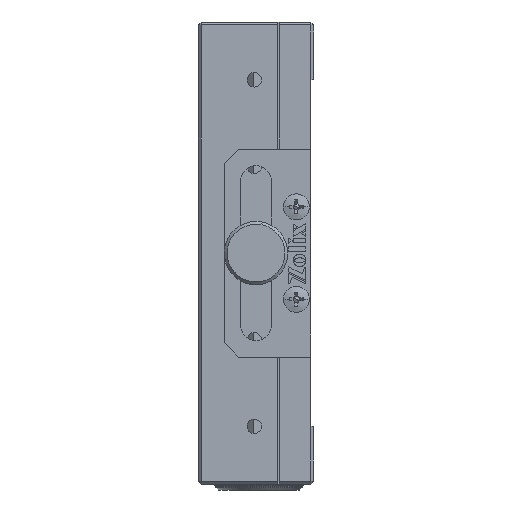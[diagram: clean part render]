
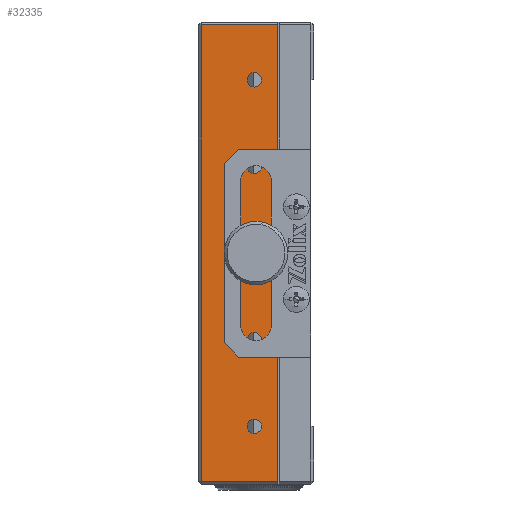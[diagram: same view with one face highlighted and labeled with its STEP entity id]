
A CAD part, left-side view. The second image highlights one B-rep face of the part: STEP entity #32335.
In plain terms, the highlighted planar face has unit normal (-1, 0, 0).
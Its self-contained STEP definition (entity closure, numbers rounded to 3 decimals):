
#350 = EDGE_CURVE ( 'NONE', #34353, #15130, #20415, .T. ) ;
#1024 = VERTEX_POINT ( 'NONE', #22982 ) ;
#1559 = EDGE_CURVE ( 'NONE', #21155, #28347, #36239, .T. ) ;
#1900 = EDGE_CURVE ( 'NONE', #19435, #8031, #33660, .T. ) ;
#2392 = DIRECTION ( 'NONE',  ( -1., 0., 0. ) ) ;
#2462 = CARTESIAN_POINT ( 'NONE',  ( -31.023, -20.868, 52.5 ) ) ;
#2841 = VERTEX_POINT ( 'NONE', #40314 ) ;
#3067 = CIRCLE ( 'NONE', #40411, 1.25 ) ;
#3211 = AXIS2_PLACEMENT_3D ( 'NONE', #27399, #11199, #34038 ) ;
#3980 = DIRECTION ( 'NONE',  ( 0., 0., 1. ) ) ;
#4046 = ORIENTED_EDGE ( 'NONE', *, *, #39722, .T. ) ;
#4564 = CARTESIAN_POINT ( 'NONE',  ( -31.023, -17.168, 90.4 ) ) ;
#4637 = DIRECTION ( 'NONE',  ( -1., 0., 0. ) ) ;
#4684 = ORIENTED_EDGE ( 'NONE', *, *, #31153, .F. ) ;
#5009 = AXIS2_PLACEMENT_3D ( 'NONE', #5511, #5220, #11701 ) ;
#5194 = CARTESIAN_POINT ( 'NONE',  ( -31.023, -16.868, 62.5 ) ) ;
#5220 = DIRECTION ( 'NONE',  ( -1., 0., 0. ) ) ;
#5511 = CARTESIAN_POINT ( 'NONE',  ( -31.023, -16.868, 122.5 ) ) ;
#5591 = CARTESIAN_POINT ( 'NONE',  ( -31.023, -7.668, 132. ) ) ;
#5643 = DIRECTION ( 'NONE',  ( 0., 0., 1. ) ) ;
#5857 = ORIENTED_EDGE ( 'NONE', *, *, #8309, .F. ) ;
#6480 = EDGE_CURVE ( 'NONE', #19207, #35216, #3067, .T. ) ;
#6888 = AXIS2_PLACEMENT_3D ( 'NONE', #30829, #17677, #23926 ) ;
#7016 = VECTOR ( 'NONE', #40687, 1000. ) ;
#7029 = CARTESIAN_POINT ( 'NONE',  ( -31.023, -17.168, 92.5 ) ) ;
#7156 = DIRECTION ( 'NONE',  ( 0., 0., 1. ) ) ;
#7596 = CIRCLE ( 'NONE', #5009, 1.25 ) ;
#7885 = FACE_BOUND ( 'NONE', #23200, .T. ) ;
#8031 = VERTEX_POINT ( 'NONE', #35089 ) ;
#8131 = ORIENTED_EDGE ( 'NONE', *, *, #22523, .F. ) ;
#8157 = DIRECTION ( 'NONE',  ( 0., 0., 1. ) ) ;
#8309 = EDGE_CURVE ( 'NONE', #28347, #21155, #18184, .T. ) ;
#8366 = EDGE_CURVE ( 'NONE', #29335, #22746, #14656, .T. ) ;
#8512 = CIRCLE ( 'NONE', #6888, 1.25 ) ;
#9386 = CIRCLE ( 'NONE', #17623, 1.25 ) ;
#9795 = AXIS2_PLACEMENT_3D ( 'NONE', #17947, #27532, #27090 ) ;
#9807 = CARTESIAN_POINT ( 'NONE',  ( -31.023, -7.668, 52.5 ) ) ;
#10069 = DIRECTION ( 'NONE',  ( -1., 0., 0. ) ) ;
#10208 = VECTOR ( 'NONE', #28817, 1000. ) ;
#10513 = AXIS2_PLACEMENT_3D ( 'NONE', #18238, #27961, #24791 ) ;
#11199 = DIRECTION ( 'NONE',  ( -1., 0., 0. ) ) ;
#11306 = AXIS2_PLACEMENT_3D ( 'NONE', #11336, #38035, #8157 ) ;
#11336 = CARTESIAN_POINT ( 'NONE',  ( -31.023, -16.868, 77.5 ) ) ;
#11701 = DIRECTION ( 'NONE',  ( 0., 0., 1. ) ) ;
#11795 = VECTOR ( 'NONE', #25823, 1000. ) ;
#12069 = CARTESIAN_POINT ( 'NONE',  ( -31.023, -16.868, 61.25 ) ) ;
#12204 = CARTESIAN_POINT ( 'NONE',  ( -31.023, -17.168, 94.6 ) ) ;
#12451 = EDGE_LOOP ( 'NONE', ( #33810, #22240 ) ) ;
#12796 = CARTESIAN_POINT ( 'NONE',  ( -31.023, -16.868, 78.75 ) ) ;
#12901 = ORIENTED_EDGE ( 'NONE', *, *, #6480, .F. ) ;
#13258 = CIRCLE ( 'NONE', #42357, 1.25 ) ;
#13367 = DIRECTION ( 'NONE',  ( 0., 0., -1. ) ) ;
#13500 = ORIENTED_EDGE ( 'NONE', *, *, #37460, .T. ) ;
#14370 = EDGE_LOOP ( 'NONE', ( #13500, #38034, #4046, #23281 ) ) ;
#14656 = CIRCLE ( 'NONE', #3211, 1.25 ) ;
#15012 = CARTESIAN_POINT ( 'NONE',  ( -31.023, -20.868, 53. ) ) ;
#15107 = CARTESIAN_POINT ( 'NONE',  ( -31.023, -16.868, 123.75 ) ) ;
#15130 = VERTEX_POINT ( 'NONE', #15012 ) ;
#15898 = VECTOR ( 'NONE', #13367, 1000. ) ;
#16017 = CARTESIAN_POINT ( 'NONE',  ( -31.023, -20.868, 53. ) ) ;
#16067 = EDGE_CURVE ( 'NONE', #1024, #30787, #33121, .T. ) ;
#17577 = FACE_BOUND ( 'NONE', #24348, .T. ) ;
#17623 = AXIS2_PLACEMENT_3D ( 'NONE', #29381, #39429, #3980 ) ;
#17677 = DIRECTION ( 'NONE',  ( -1., 0., 0. ) ) ;
#17891 = LINE ( 'NONE', #9807, #15898 ) ;
#17947 = CARTESIAN_POINT ( 'NONE',  ( -31.023, -17.168, 92.5 ) ) ;
#18184 = CIRCLE ( 'NONE', #9795, 2.1 ) ;
#18238 = CARTESIAN_POINT ( 'NONE',  ( -31.023, -20.868, 52.5 ) ) ;
#18826 = AXIS2_PLACEMENT_3D ( 'NONE', #7029, #10069, #7156 ) ;
#19207 = VERTEX_POINT ( 'NONE', #29807 ) ;
#19270 = CARTESIAN_POINT ( 'NONE',  ( -31.023, -7.668, 53. ) ) ;
#19368 = ORIENTED_EDGE ( 'NONE', *, *, #38965, .F. ) ;
#19435 = VERTEX_POINT ( 'NONE', #12796 ) ;
#19595 = FACE_BOUND ( 'NONE', #26758, .T. ) ;
#19739 = AXIS2_PLACEMENT_3D ( 'NONE', #27137, #30618, #30051 ) ;
#20415 = LINE ( 'NONE', #16017, #11795 ) ;
#21155 = VERTEX_POINT ( 'NONE', #4564 ) ;
#21789 = ORIENTED_EDGE ( 'NONE', *, *, #1900, .F. ) ;
#21833 = CIRCLE ( 'NONE', #19739, 1.25 ) ;
#22092 = EDGE_CURVE ( 'NONE', #22746, #29335, #7596, .T. ) ;
#22240 = ORIENTED_EDGE ( 'NONE', *, *, #22092, .F. ) ;
#22523 = EDGE_CURVE ( 'NONE', #2841, #26892, #21833, .T. ) ;
#22746 = VERTEX_POINT ( 'NONE', #35430 ) ;
#22982 = CARTESIAN_POINT ( 'NONE',  ( -31.023, -20.868, 132. ) ) ;
#23200 = EDGE_LOOP ( 'NONE', ( #5857, #42255 ) ) ;
#23281 = ORIENTED_EDGE ( 'NONE', *, *, #16067, .T. ) ;
#23926 = DIRECTION ( 'NONE',  ( 0., 0., 1. ) ) ;
#24348 = EDGE_LOOP ( 'NONE', ( #4684, #12901 ) ) ;
#24791 = DIRECTION ( 'NONE',  ( 0., 0., 1. ) ) ;
#25823 = DIRECTION ( 'NONE',  ( 0., -1., 0. ) ) ;
#26758 = EDGE_LOOP ( 'NONE', ( #21789, #40235 ) ) ;
#26892 = VERTEX_POINT ( 'NONE', #12069 ) ;
#27090 = DIRECTION ( 'NONE',  ( 0., 0., 1. ) ) ;
#27137 = CARTESIAN_POINT ( 'NONE',  ( -31.023, -16.868, 62.5 ) ) ;
#27399 = CARTESIAN_POINT ( 'NONE',  ( -31.023, -16.868, 122.5 ) ) ;
#27532 = DIRECTION ( 'NONE',  ( -1., 0., 0. ) ) ;
#27961 = DIRECTION ( 'NONE',  ( -1., 0., 0. ) ) ;
#28347 = VERTEX_POINT ( 'NONE', #12204 ) ;
#28817 = DIRECTION ( 'NONE',  ( 0., 0., 1. ) ) ;
#29335 = VERTEX_POINT ( 'NONE', #15107 ) ;
#29381 = CARTESIAN_POINT ( 'NONE',  ( -31.023, -16.868, 77.5 ) ) ;
#29807 = CARTESIAN_POINT ( 'NONE',  ( -31.023, -16.868, 106.25 ) ) ;
#30051 = DIRECTION ( 'NONE',  ( 0., 0., 1. ) ) ;
#30376 = FACE_OUTER_BOUND ( 'NONE', #14370, .T. ) ;
#30618 = DIRECTION ( 'NONE',  ( -1., 0., 0. ) ) ;
#30787 = VERTEX_POINT ( 'NONE', #5591 ) ;
#30829 = CARTESIAN_POINT ( 'NONE',  ( -31.023, -16.868, 107.5 ) ) ;
#30870 = FACE_BOUND ( 'NONE', #35161, .T. ) ;
#31060 = DIRECTION ( 'NONE',  ( 0., 0., 1. ) ) ;
#31153 = EDGE_CURVE ( 'NONE', #35216, #19207, #8512, .T. ) ;
#31566 = PLANE ( 'NONE',  #10513 ) ;
#31658 = CARTESIAN_POINT ( 'NONE',  ( -31.023, -16.868, 107.5 ) ) ;
#32335 = ADVANCED_FACE ( 'NONE', ( #19595, #30870, #40139, #17577, #7885, #30376 ), #31566, .T. ) ;
#33121 = LINE ( 'NONE', #33827, #7016 ) ;
#33660 = CIRCLE ( 'NONE', #11306, 1.25 ) ;
#33810 = ORIENTED_EDGE ( 'NONE', *, *, #8366, .F. ) ;
#33827 = CARTESIAN_POINT ( 'NONE',  ( -31.023, -20.868, 132. ) ) ;
#34038 = DIRECTION ( 'NONE',  ( 0., 0., 1. ) ) ;
#34085 = CARTESIAN_POINT ( 'NONE',  ( -31.023, -16.868, 108.75 ) ) ;
#34353 = VERTEX_POINT ( 'NONE', #19270 ) ;
#35089 = CARTESIAN_POINT ( 'NONE',  ( -31.023, -16.868, 76.25 ) ) ;
#35161 = EDGE_LOOP ( 'NONE', ( #8131, #19368 ) ) ;
#35216 = VERTEX_POINT ( 'NONE', #34085 ) ;
#35430 = CARTESIAN_POINT ( 'NONE',  ( -31.023, -16.868, 121.25 ) ) ;
#36016 = EDGE_CURVE ( 'NONE', #8031, #19435, #9386, .T. ) ;
#36239 = CIRCLE ( 'NONE', #18826, 2.1 ) ;
#37460 = EDGE_CURVE ( 'NONE', #30787, #34353, #17891, .T. ) ;
#38034 = ORIENTED_EDGE ( 'NONE', *, *, #350, .T. ) ;
#38035 = DIRECTION ( 'NONE',  ( -1., 0., 0. ) ) ;
#38339 = LINE ( 'NONE', #2462, #10208 ) ;
#38965 = EDGE_CURVE ( 'NONE', #26892, #2841, #13258, .T. ) ;
#39429 = DIRECTION ( 'NONE',  ( -1., 0., 0. ) ) ;
#39722 = EDGE_CURVE ( 'NONE', #15130, #1024, #38339, .T. ) ;
#40139 = FACE_BOUND ( 'NONE', #12451, .T. ) ;
#40235 = ORIENTED_EDGE ( 'NONE', *, *, #36016, .F. ) ;
#40314 = CARTESIAN_POINT ( 'NONE',  ( -31.023, -16.868, 63.75 ) ) ;
#40411 = AXIS2_PLACEMENT_3D ( 'NONE', #31658, #2392, #5643 ) ;
#40687 = DIRECTION ( 'NONE',  ( 0., 1., 0. ) ) ;
#42255 = ORIENTED_EDGE ( 'NONE', *, *, #1559, .F. ) ;
#42357 = AXIS2_PLACEMENT_3D ( 'NONE', #5194, #4637, #31060 ) ;
